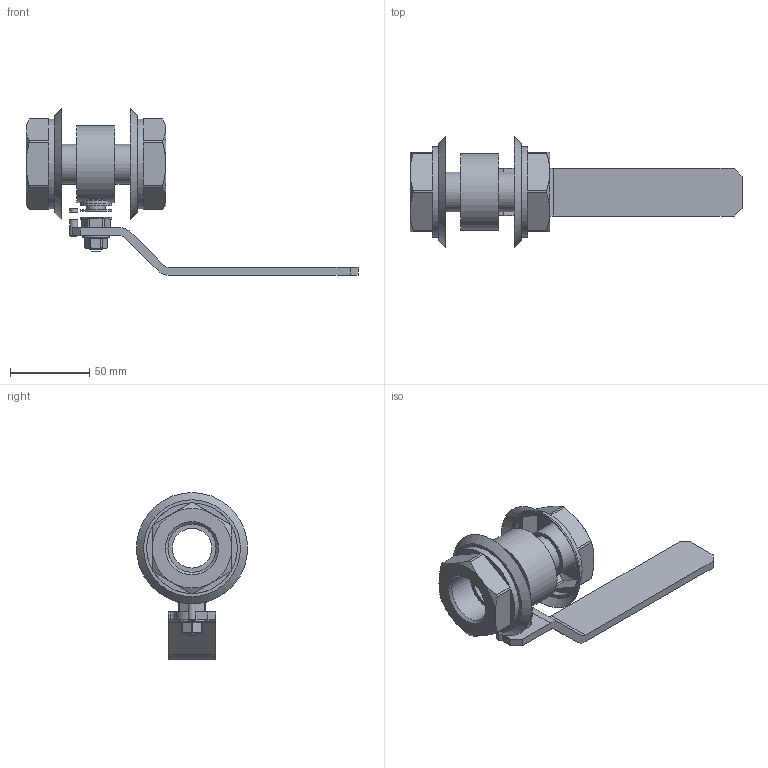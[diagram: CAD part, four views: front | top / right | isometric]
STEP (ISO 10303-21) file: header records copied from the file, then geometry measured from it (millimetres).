
FILE_DESCRIPTION(('STEP AP203'), '1');
FILE_NAME('ZARDP 025.100.10.P.stp', '2013-12-05T13:42:45', ('Øèøêî'), ('Ýíåðïðåä ßðäîñ'), 'ASCON STEP Converter 1.3', 'Kompas 3D', '');
FILE_SCHEMA(('CONFIG_CONTROL_DESIGN','SUPPORT_RESOURCE_SCHEMA'));
Length unit declared in the file: millimetre
Products named in the file (1): 237
Bounding box: 209 x 70 x 105 mm (x, y, z)
Surface area: 50370.4 mm2
Topology: 2 solids, 3 shells, 177 faces, 419 edges, 263 vertices
Faces by surface type: plane 108, cylinder 38, cone 30, torus 1
Full cylindrical faces by diameter (mm): 5 x2, 8 x1, 10.7 x1, 10.917 x1, 12 x1, 12.1 x1, 19.8 x1, 20 x3, 25 x2, 30.291 x2, 48.4 x1, 57 x2, 70 x1
Entity records: 6594 total; most frequent: CARTESIAN_POINT 2370, DIRECTION 895, ORIENTED_EDGE 836, EDGE_CURVE 419, AXIS2_PLACEMENT_3D 341, VERTEX_POINT 263, LINE 213, VECTOR 213
